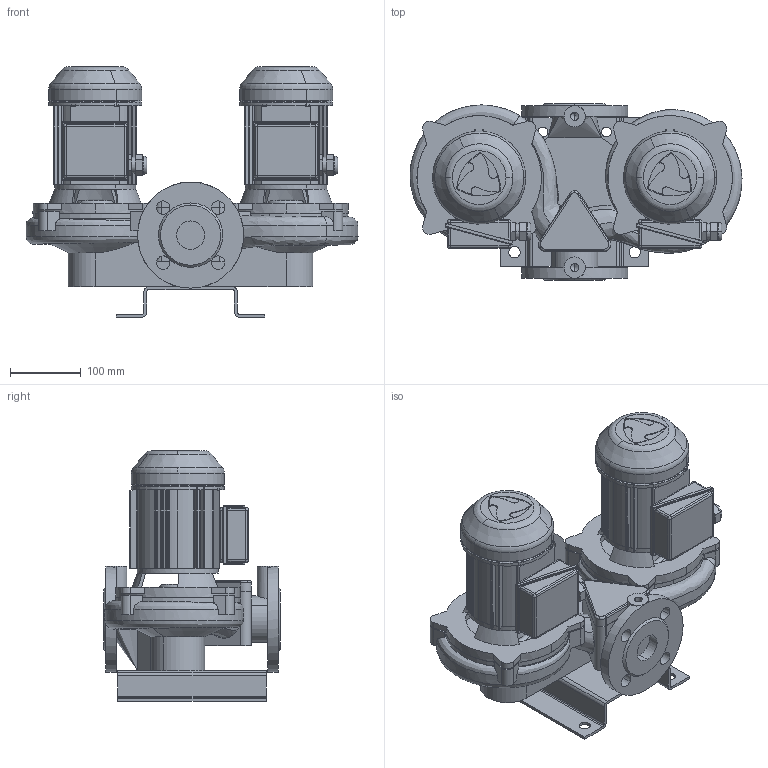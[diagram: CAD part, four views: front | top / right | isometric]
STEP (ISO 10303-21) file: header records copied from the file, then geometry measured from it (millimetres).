
FILE_DESCRIPTION(('STEP AP214'),'1');
FILE_NAME('export.stp','2018-05-30T07:24:34',(' '),(' '),'Spatial InterOp 3D',' ',' ');
FILE_SCHEMA(('AUTOMOTIVE_DESIGN { 1 0 10303 214 1 1 1 1 }'));
Length unit declared in the file: millimetre
Products named in the file (13): V_MOP752753762; RU_OP_752_753_762; TSUOJA_OP_7; KYTKOTELO_OP7_OKN8; W_T40A4200; V_EKN13OP752; V_TLAEAP3233L40A; V_PPT40A; V_JALKA35973
Assembly tree (14 placements, depth 3):
  W_T40A4200
    V_MOP752753762
      RU_OP_752_753_762
      TSUOJA_OP_7
      KYTKOTELO_OP7_OKN8
    V_EKN13OP752  x2
    V_TLAEAP3233L40A  x2
    V_PPT40A
    V_JALKA35973
    V_MOP752753762
      RU_OP_752_753_762
      TSUOJA_OP_7
      KYTKOTELO_OP7_OKN8
Bounding box: 469.53 x 250 x 354 mm (x, y, z)
Volume: 8447715 mm3; surface area: 1131020.4 mm2
Topology: 12 solids, 14 shells, 1002 faces, 2723 edges, 1757 vertices
Faces by surface type: cylinder 527, plane 294, bspline 81, cone 42, torus 34, sphere 24
Entity records: 53165 total; most frequent: CARTESIAN_POINT 13046, DIRECTION 5114, ORIENTED_EDGE 5044, STYLED_ITEM 2637, PRESENTATION_STYLE_ASSIGNMENT 2637, COLOUR_RGB 2637, EDGE_CURVE 2522, AXIS2_PLACEMENT_3D 2048
